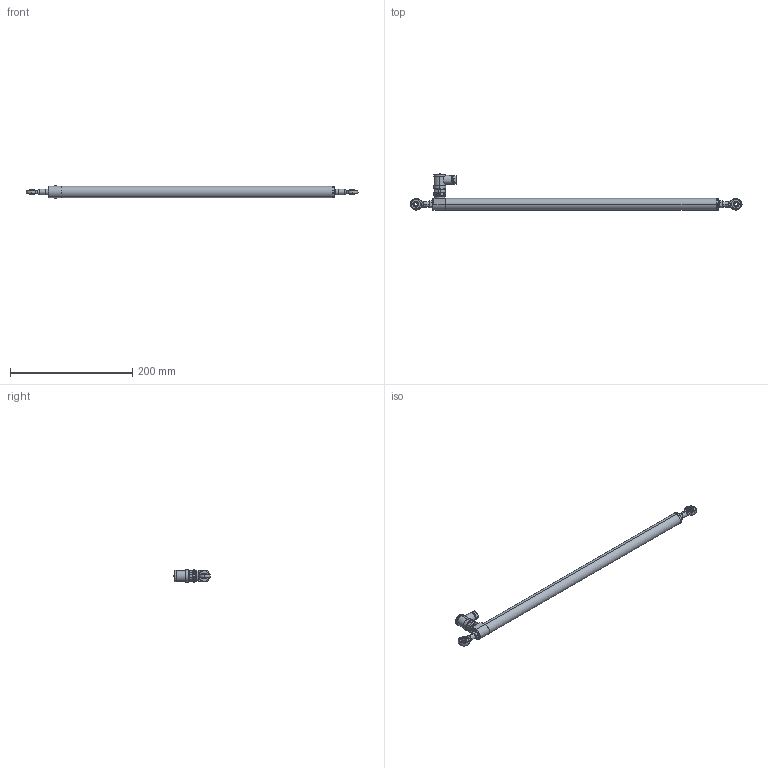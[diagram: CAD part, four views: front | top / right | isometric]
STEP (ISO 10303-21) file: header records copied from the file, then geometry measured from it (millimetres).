
FILE_DESCRIPTION (( 'STEP AP214' ), '1' );
FILE_NAME ('P117-350AKNU.STEP', '2025-04-10T10:30:01', ( '' ), ( '' ), 'SwSTEP 2.0', 'SolidWorks 2023', '' );
FILE_SCHEMA (( 'AUTOMOTIVE_DESIGN' ));
Length unit declared in the file: millimetre
Products named in the file (1): P117-350AKNU
Bounding box: 543.5 x 59.23 x 20 mm (x, y, z)
Surface area: 47891.7 mm2 (no closed solid volume)
Topology: 0 solids, 16 shells, 221 faces, 593 edges, 387 vertices
Faces by surface type: plane 81, cylinder 62, cone 41, bspline 13, torus 12, sphere 12
Entity records: 7582 total; most frequent: CARTESIAN_POINT 2337, DIRECTION 1106, ORIENTED_EDGE 1042, EDGE_CURVE 569, AXIS2_PLACEMENT_3D 470, VERTEX_POINT 375, CIRCLE 261, EDGE_LOOP 252
